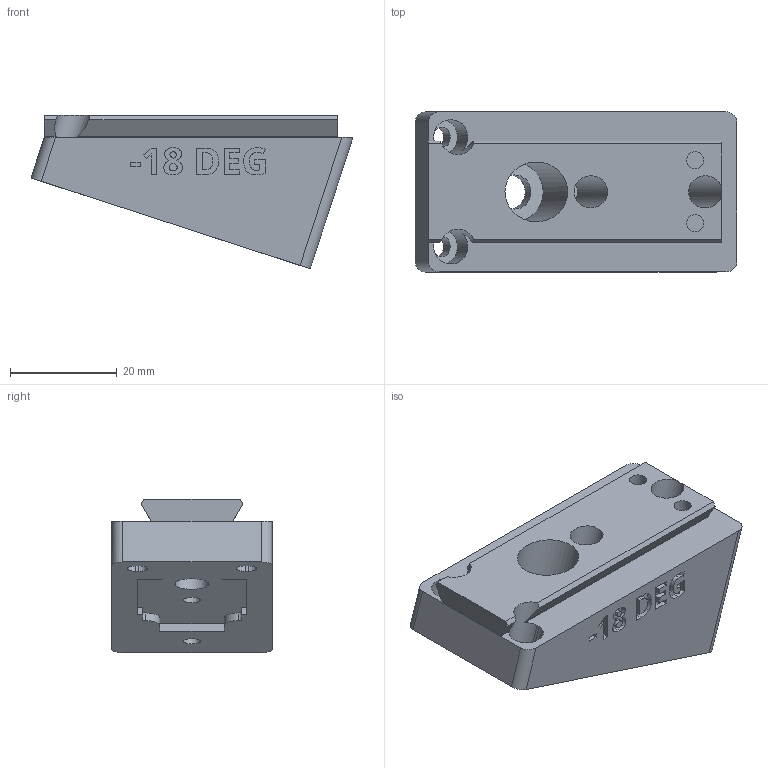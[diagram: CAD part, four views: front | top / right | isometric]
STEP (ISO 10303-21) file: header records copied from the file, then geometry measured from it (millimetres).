
FILE_DESCRIPTION(/* description */ ('STEP AP242 Edition 2','CAx-IF Rec.Pracs.---Representation and Presentation of Product Manufacturing Information (PMI)---4.0---2014-10-13','CAx-IF Rec.Pracs.---3D Tessellated Geometry---0.4---2014-09-14','2;1','CAx-IF Rec.Pracs.---User Defined Attributes---1.5---2016-08-15'),/* implementation_level */ '2;1');
FILE_NAME(/* name */ 'Camera Wedges - CAMERA MOUNTING WEDGE, NEG, -18 DEG',/* time_stamp */ '2026-08-11T00:06:39Z',/* author */ (''),/* organization */ (''),/* preprocessor_version */ 'ST-DEVELOPER v20',/* originating_system */ 'ONSHAPE BY PTC INC, 1.219',/* authorisation */ ' ');
FILE_SCHEMA (('AP242_MANAGED_MODEL_BASED_3D_ENGINEERING_MIM_LF { 1 0 10303 442 3 1 4 }'));
Length unit declared in the file: metre
Products named in the file (1): CAMERA MOUNTING WEDGE, NEG, -18 DEG
Bounding box: 60.31 x 30 x 28.73 mm (x, y, z)
Volume: 27685.8 mm3; surface area: 9008.8 mm2
Topology: 1 solids, 1 shells, 271 faces, 736 edges, 490 vertices
Faces by surface type: plane 143, bspline 80, cylinder 48
Full cylindrical faces by diameter (mm): 3.2 x4, 6 x2, 6.4 x1, 11.2 x1
Entity records: 8776 total; most frequent: CARTESIAN_POINT 2368, ORIENTED_EDGE 1454, DIRECTION 1060, EDGE_CURVE 727, VERTEX_POINT 489, LINE 458, VECTOR 458, EDGE_LOOP 312
